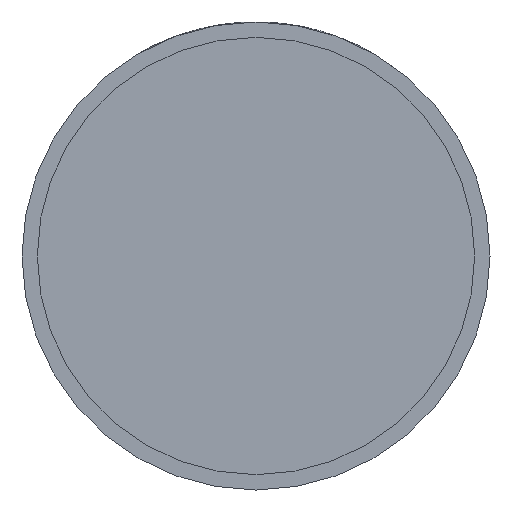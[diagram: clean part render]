
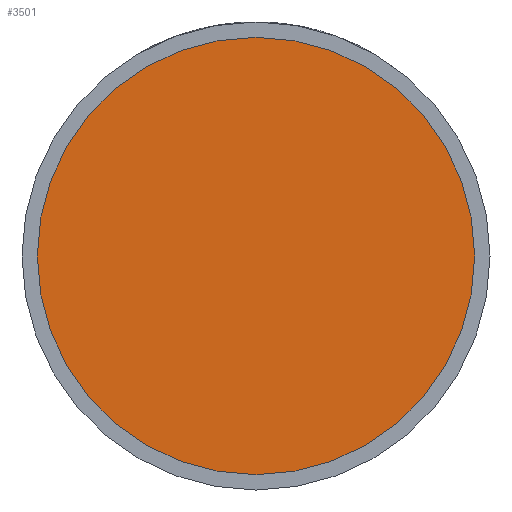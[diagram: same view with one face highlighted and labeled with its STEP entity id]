
A CAD part, front view. The second image highlights one B-rep face of the part: STEP entity #3501.
In plain terms, the highlighted planar face has unit normal (0, -1, 0).
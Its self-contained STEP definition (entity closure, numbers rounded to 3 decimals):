
#115 = CIRCLE ( 'NONE', #803, 28.5 ) ;
#163 = ORIENTED_EDGE ( 'NONE', *, *, #1415, .T. ) ;
#298 = DIRECTION ( 'NONE',  ( 0., -1., 0. ) ) ;
#299 = CARTESIAN_POINT ( 'NONE',  ( 0., -17.5, 0. ) ) ;
#426 = CARTESIAN_POINT ( 'NONE',  ( 28.5, -17.5, 0. ) ) ;
#428 = CARTESIAN_POINT ( 'NONE',  ( -28.5, -17.5, 0. ) ) ;
#803 = AXIS2_PLACEMENT_3D ( 'NONE', #299, #2952, #3658 ) ;
#857 = ORIENTED_EDGE ( 'NONE', *, *, #3112, .T. ) ;
#1125 = FACE_OUTER_BOUND ( 'NONE', #2198, .T. ) ;
#1235 = AXIS2_PLACEMENT_3D ( 'NONE', #4085, #1774, #3106 ) ;
#1415 = EDGE_CURVE ( 'NONE', #4233, #2309, #2878, .T. ) ;
#1482 = AXIS2_PLACEMENT_3D ( 'NONE', #1644, #298, #2996 ) ;
#1644 = CARTESIAN_POINT ( 'NONE',  ( 0., -17.5, 0. ) ) ;
#1774 = DIRECTION ( 'NONE',  ( 0., -1., 0. ) ) ;
#2166 = PLANE ( 'NONE',  #1235 ) ;
#2198 = EDGE_LOOP ( 'NONE', ( #163, #857 ) ) ;
#2309 = VERTEX_POINT ( 'NONE', #428 ) ;
#2878 = CIRCLE ( 'NONE', #1482, 28.5 ) ;
#2952 = DIRECTION ( 'NONE',  ( 0., -1., 0. ) ) ;
#2996 = DIRECTION ( 'NONE',  ( 1., 0., 0. ) ) ;
#3106 = DIRECTION ( 'NONE',  ( 1., 0., 0. ) ) ;
#3112 = EDGE_CURVE ( 'NONE', #2309, #4233, #115, .T. ) ;
#3501 = ADVANCED_FACE ( 'NONE', ( #1125 ), #2166, .T. ) ;
#3658 = DIRECTION ( 'NONE',  ( 1., 0., 0. ) ) ;
#4085 = CARTESIAN_POINT ( 'NONE',  ( 28.5, -17.5, 0. ) ) ;
#4233 = VERTEX_POINT ( 'NONE', #426 ) ;
